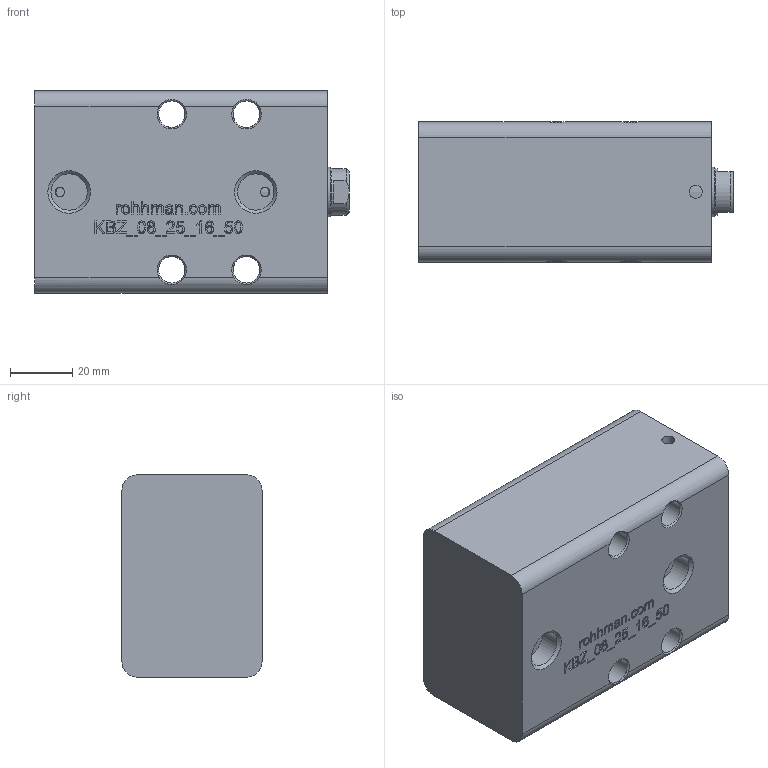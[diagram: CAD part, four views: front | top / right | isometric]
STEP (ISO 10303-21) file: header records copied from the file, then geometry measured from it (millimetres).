
FILE_DESCRIPTION(/* description */ (''),/* implementation_level */ '2;1');
FILE_NAME(/* name */ 'KBZ_08_25_16_50_WEB.step',/* time_stamp */ '2022-12-25T12:05:57+03:00',/* author */ (''),/* organization */ (''),/* preprocessor_version */ 'ST-DEVELOPER v19.2',/* originating_system */ 'Autodesk Translation Framework v11.17.0.187',/* authorisation */ '');
FILE_SCHEMA (('AUTOMOTIVE_DESIGN { 1 0 10303 214 3 1 1 }'));
Length unit declared in the file: millimetre
Products named in the file (7): KBZ_08_25_16_50_WEB; KBZ_03_25_16_ÖN_KAPAK; KBZ_03_25_16_ON_KAPAK; KBZ_08_25_16_50_GÖVDE_WEB; Bileşen1; KBZ_08_25_16_50_MİL_WEB; Bileşen1_1
Assembly tree (6 placements, depth 3):
  KBZ_08_25_16_50_WEB
    KBZ_03_25_16_ÖN_KAPAK
      KBZ_03_25_16_ON_KAPAK
    KBZ_08_25_16_50_GÖVDE_WEB
      Bileşen1
    KBZ_08_25_16_50_MİL_WEB
      Bileşen1_1
Bounding box: 101 x 45 x 65 mm (x, y, z)
Volume: 225795.5 mm3; surface area: 45704.3 mm2
Topology: 3 solids, 3 shells, 600 faces, 1630 edges, 1079 vertices
Faces by surface type: bspline 342, plane 202, cylinder 33, cone 23
Full cylindrical faces by diameter (mm): 3 x4, 4.2 x1, 8.5 x5, 10 x1, 11.668 x2, 15 x1, 16 x1, 16.5 x2, 18 x2, 20.5 x1, 21.4 x1, 22.8 x1, 25 x1, 25.5 x2, 26 x1, 32.5 x1, 34 x1, 34.5 x1
Entity records: 22616 total; most frequent: CARTESIAN_POINT 9575, ORIENTED_EDGE 3258, EDGE_CURVE 1629, DIRECTION 1574, VERTEX_POINT 1079, LINE 826, VECTOR 826, B_SPLINE_CURVE_WITH_KNOTS 696
